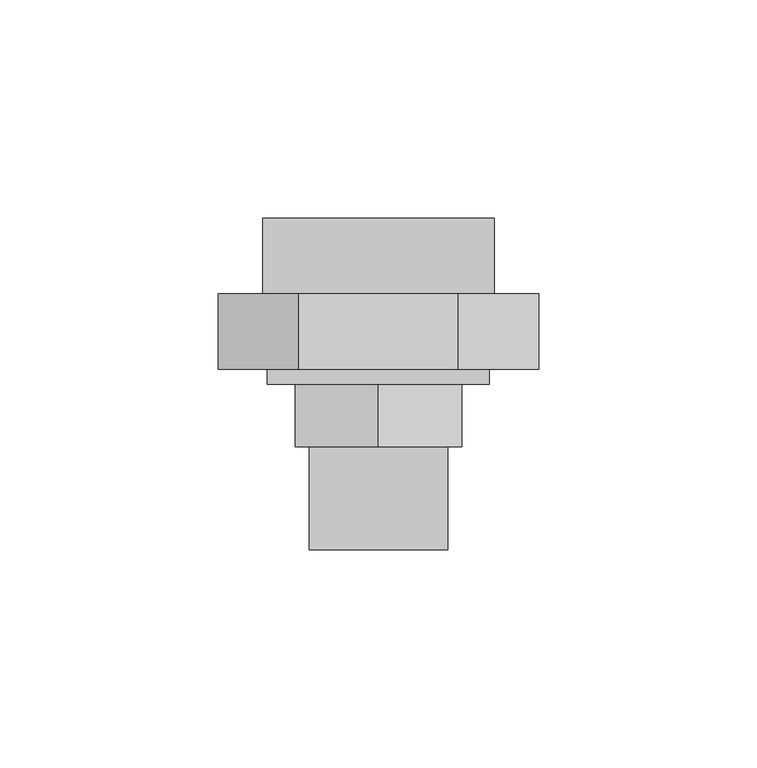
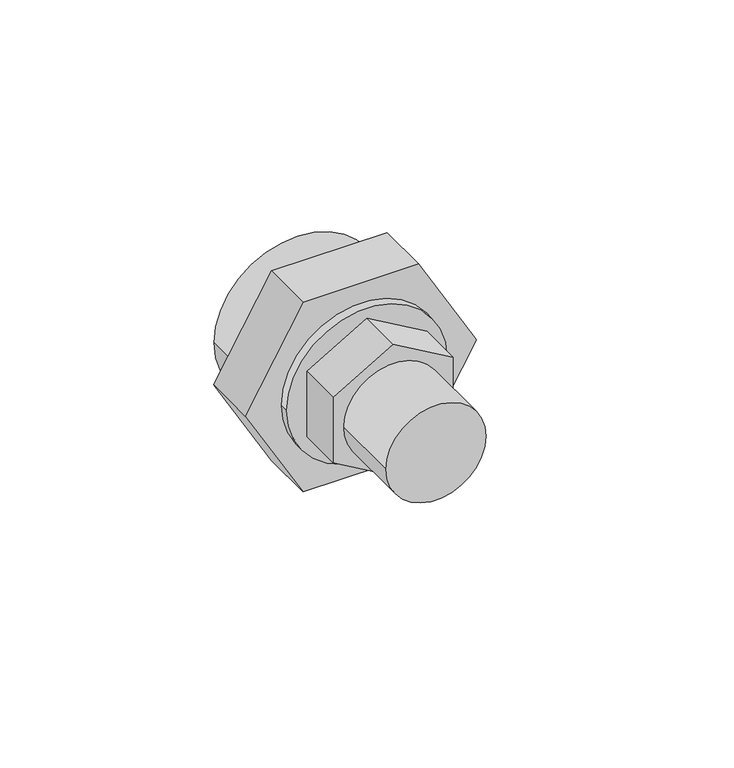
"""IFC4 building model written with IfcOpenShell, lengths in millimetres: pipe fitting geometry, EGB_VASEN_ PPR_Enlace desmontable rosca macho WXR103 : Enlace desmontable rosca macho WXR103."""

from ifc_helpers import new_model, si_unit, point, frame, origin, origin_2d, place, context, project, spatial, polyline, circle_curve, trimmed, segment, composite_curve, outline, extrude, source, transform, mapped, element, save


def pipe_fitting_9d54a024(model_context):
    return source(origin(), model_context, "Body", "SweptSolid", [
        extrude(outline(polyline([(-10.9985226, -19.05), (-21.9970453, 0.0), (-10.9985226, 19.05), (10.9985226, 19.05), (21.9970453, 0.0), (10.9985226, -19.05), (-10.9985226, -19.05)])), frame((0.0, -34.42125, 0.0), z_axis=(0.0, 1.0, 0.0), x_axis=(0.0, 0.0, 1.0)), (0.0, 0.0, 1.0), 14.3333333),
        extrude(outline(polyline([(0.0, 36.7194771), (31.8, 18.3597386), (31.8, -18.3597386), (0.0, -36.7194771), (-31.8, -18.3597386), (-31.8, 18.3597386), (0.0, 36.7194771)])), frame((0.0, -16.7204167, 0.0), z_axis=(0.0, 1.0, 0.0), x_axis=(0.0, 0.0, 1.0)), (0.0, 0.0, 1.0), 17.3333333),
        extrude(outline(composite_curve([segment(trimmed(circle_curve(origin_2d(), 15.875), [point((0.0, -15.875))], [point((0.0, 15.875))], False, "CARTESIAN"), True, "CONTINUOUS"), segment(trimmed(circle_curve(origin_2d(), 15.875), [point((0.0, 15.875))], [point((0.0, -15.875))], False, "CARTESIAN"), True, "CONTINUOUS")], self_intersect=False)), frame((0.0, -58.05375, 0.0), z_axis=(0.0, 1.0, 0.0), x_axis=(0.0, 0.0, 1.0)), (0.0, 0.0, 1.0), 24.0),
        extrude(outline(composite_curve([segment(trimmed(circle_curve(origin_2d(), 25.425), [point((0.0, -25.425))], [point((0.0, 25.425))], False, "CARTESIAN"), True, "CONTINUOUS"), segment(trimmed(circle_curve(origin_2d(), 25.425), [point((0.0, 25.425))], [point((0.0, -25.425))], False, "CARTESIAN"), True, "CONTINUOUS")], self_intersect=False)), frame((0.0, -20.0879167, 0.0), z_axis=(0.0, 1.0, 0.0), x_axis=(0.0, 0.0, 1.0)), (0.0, 0.0, 1.0), 3.3675),
        extrude(outline(composite_curve([segment(trimmed(circle_curve(origin_2d(), 26.5), [point((0.0, -26.5))], [point((0.0, 26.5))], False, "CARTESIAN"), True, "CONTINUOUS"), segment(trimmed(circle_curve(origin_2d(), 26.5), [point((0.0, 26.5))], [point((0.0, -26.5))], False, "CARTESIAN"), True, "CONTINUOUS")], self_intersect=False), holes=[composite_curve([segment(trimmed(circle_curve(origin_2d(), 20.0), [point((0.0, -20.0))], [point((0.0, 20.0))], True, "CARTESIAN"), True, "CONTINUOUS"), segment(trimmed(circle_curve(origin_2d(), 20.0), [point((0.0, 20.0))], [point((0.0, -20.0))], True, "CARTESIAN"), True, "CONTINUOUS")], self_intersect=False)]), frame((0.0, 0.6129167, 0.0), z_axis=(0.0, 1.0, 0.0), x_axis=(0.0, 0.0, 1.0)), (0.0, 0.0, 1.0), 17.3333333),
    ])


if __name__ == "__main__":
    model = new_model("IFC4")
    model_context = context("Model", 3, world=origin())
    ifc_project = project(units=[si_unit("LENGTHUNIT", "METRE", prefix="MILLI")], contexts=[model_context])
    site = spatial("IfcSite", under=ifc_project)
    building = spatial("IfcBuilding", under=site)
    placement = place(None, origin())
    pipe_fitting_shape = pipe_fitting_9d54a024(model_context)
    element("IfcPipeFitting", 1, ObjectType="EGB_VASEN_ PPR_Enlace desmontable rosca macho WXR103 : Enlace desmontable rosca macho WXR103", at=placement, inside=building, context=model_context, shape_type="MappedRepresentation", body=[
        mapped(pipe_fitting_shape, transform((0.0, 0.0, 0.0), x_axis=(1.0, 0.0, 0.0), y_axis=(0.0, 1.0, 0.0), z_axis=(0.0, 0.0, 1.0))),
    ])
    save(model, "model.ifc")
